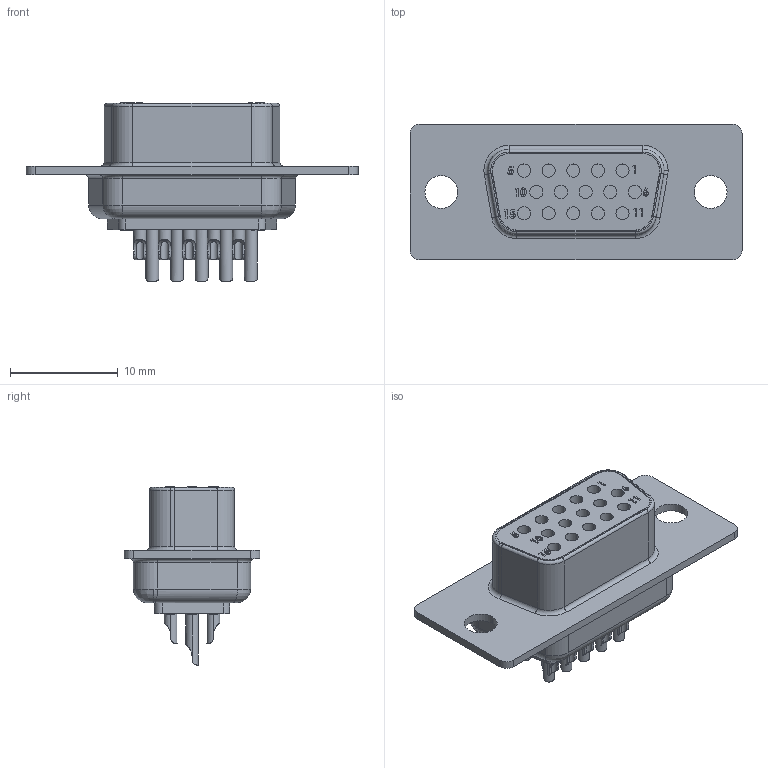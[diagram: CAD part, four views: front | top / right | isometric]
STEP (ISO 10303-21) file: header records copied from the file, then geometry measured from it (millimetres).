
FILE_DESCRIPTION(('FreeCAD Model'),'2;1');
FILE_NAME('C:/Users/Metaltex-99/Desktop/DBAF-15.stp', '2020-12-23T08:55:21',('Engenharia Metaltex'),('Metaltex'), 'Open CASCADE STEP processor 7.3','FreeCAD','Unknown');
FILE_SCHEMA(('AUTOMOTIVE_DESIGN { 1 0 10303 214 1 1 1 1 }'));
Length unit declared in the file: millimetre
Products named in the file (1): DBAF-15
Bounding box: 30.81 x 12.6 x 16.54 mm (x, y, z)
Volume: 1777.8 mm3; surface area: 2395.7 mm2
Topology: 1 solids, 1 shells, 490 faces, 1199 edges, 768 vertices
Faces by surface type: plane 237, cylinder 165, bspline 68, torus 15, revolution 5
Entity records: 41748 total; most frequent: CARTESIAN_POINT 18765, DIRECTION 3865, LINE 2426, VECTOR 2426, ORIENTED_EDGE 2398, PCURVE 2398, DEFINITIONAL_REPRESENTATION 2398, EDGE_CURVE 1199
